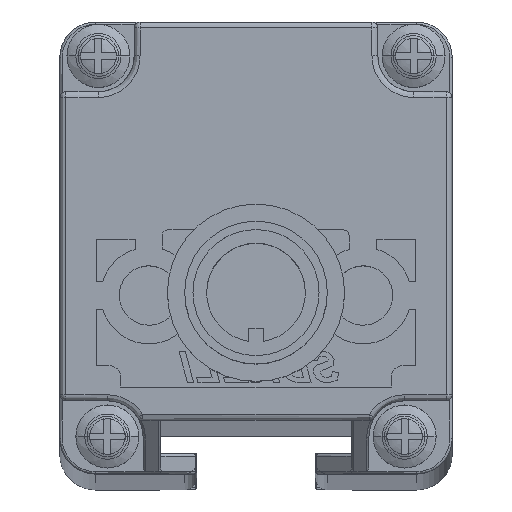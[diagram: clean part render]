
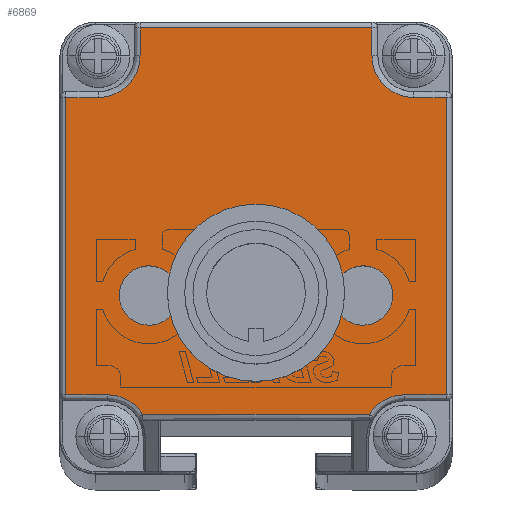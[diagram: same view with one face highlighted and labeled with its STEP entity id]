
A CAD part, top view. The second image highlights one B-rep face of the part: STEP entity #6869.
In plain terms, the highlighted planar face has unit normal (0, 0, 1).
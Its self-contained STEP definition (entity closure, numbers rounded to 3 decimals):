
#2781=CARTESIAN_POINT('',(0.65,-8.054,
645.276));
#2782=DIRECTION('',(0.,0.,1.));
#2783=DIRECTION('',(1.,0.,0.));
#2784=AXIS2_PLACEMENT_3D('',#2781,#2782,#2783);
#2786=CARTESIAN_POINT('',(0.65,-8.054,
645.276));
#2787=DIRECTION('',(0.,0.,1.));
#2788=DIRECTION('',(-1.,0.,0.));
#2789=AXIS2_PLACEMENT_3D('',#2786,#2787,#2788);
#2791=CARTESIAN_POINT('',(9.65,-8.055,645.276));
#2792=DIRECTION('',(0.,0.,1.));
#2793=DIRECTION('',(1.,-0.007,0.));
#2794=AXIS2_PLACEMENT_3D('',#2791,#2792,#2793);
#2796=CARTESIAN_POINT('',(9.65,-8.055,645.276));
#2797=DIRECTION('',(0.,0.,1.));
#2798=DIRECTION('',(-1.,0.007,0.));
#2799=AXIS2_PLACEMENT_3D('',#2796,#2797,#2798);
#2801=CARTESIAN_POINT('',(-8.35,-8.054,
645.276));
#2802=DIRECTION('',(0.,0.,1.));
#2803=DIRECTION('',(1.,0.007,0.));
#2804=AXIS2_PLACEMENT_3D('',#2801,#2802,#2803);
#2806=CARTESIAN_POINT('',(-8.35,-8.054,
645.276));
#2807=DIRECTION('',(0.,0.,1.));
#2808=DIRECTION('',(-1.,-0.007,0.));
#2809=AXIS2_PLACEMENT_3D('',#2806,#2807,#2808);
#2811=CARTESIAN_POINT('',(-11.85,-19.904,
645.276));
#2812=DIRECTION('',(0.,0.,1.));
#2813=DIRECTION('',(0.849,0.528,0.));
#2814=AXIS2_PLACEMENT_3D('',#2811,#2812,#2813);
#2816=CARTESIAN_POINT('',(-12.6,12.094,645.276));
#2817=DIRECTION('',(0.,0.,1.));
#2818=DIRECTION('',(0.,-1.,0.));
#2819=AXIS2_PLACEMENT_3D('',#2816,#2817,#2818);
#2821=CARTESIAN_POINT('',(13.9,12.094,645.276));
#2822=DIRECTION('',(0.,0.,1.));
#2823=DIRECTION('',(-1.,0.,0.));
#2824=AXIS2_PLACEMENT_3D('',#2821,#2822,#2823);
#2826=CARTESIAN_POINT('',(13.15,-19.904,645.276));
#2827=DIRECTION('',(0.,0.,1.));
#2828=DIRECTION('',(0.,1.,0.));
#2829=AXIS2_PLACEMENT_3D('',#2826,#2827,#2828);
#4545=DIRECTION('',(1.,0.,0.));
#4546=VECTOR('',#4545,19.056);
#4547=CARTESIAN_POINT('',(-8.878,-18.056,
645.276));
#4548=LINE('',#4547,#4546);
#4928=DIRECTION('',(0.,1.,0.));
#4929=VECTOR('',#4928,24.998);
#4930=CARTESIAN_POINT('',(16.65,-16.404,645.276));
#4931=LINE('',#4930,#4929);
#4951=DIRECTION('',(1.,0.,0.));
#4952=VECTOR('',#4951,3.5);
#4953=CARTESIAN_POINT('',(13.15,-16.404,645.276));
#4954=LINE('',#4953,#4952);
#4975=DIRECTION('',(-1.,0.,0.));
#4976=VECTOR('',#4975,2.75);
#4977=CARTESIAN_POINT('',(16.65,8.594,645.276));
#4978=LINE('',#4977,#4976);
#5002=DIRECTION('',(0.,1.,0.));
#5003=VECTOR('',#5002,2.35);
#5004=CARTESIAN_POINT('',(10.4,12.094,645.276));
#5005=LINE('',#5004,#5003);
#5213=DIRECTION('',(-1.,0.,0.));
#5214=VECTOR('',#5213,19.5);
#5215=CARTESIAN_POINT('',(10.4,14.444,645.276));
#5216=LINE('',#5215,#5214);
#5252=DIRECTION('',(0.,-1.,0.));
#5253=VECTOR('',#5252,2.35);
#5254=CARTESIAN_POINT('',(-9.1,14.444,645.276));
#5255=LINE('',#5254,#5253);
#5279=DIRECTION('',(-1.,0.,0.));
#5280=VECTOR('',#5279,2.75);
#5281=CARTESIAN_POINT('',(-12.6,8.594,645.276));
#5282=LINE('',#5281,#5280);
#5450=DIRECTION('',(0.,-1.,0.));
#5451=VECTOR('',#5450,24.998);
#5452=CARTESIAN_POINT('',(-15.35,8.594,645.276));
#5453=LINE('',#5452,#5451);
#5489=DIRECTION('',(1.,0.,0.));
#5490=VECTOR('',#5489,3.5);
#5491=CARTESIAN_POINT('',(-15.35,-16.404,
645.276));
#5492=LINE('',#5491,#5490);
#5953=CARTESIAN_POINT('',(12.15,-8.072,645.276));
#5954=VERTEX_POINT('',#5953);
#5955=CARTESIAN_POINT('',(7.15,-8.039,645.276));
#5956=VERTEX_POINT('',#5955);
#5957=CARTESIAN_POINT('',(-8.878,-18.056,
645.276));
#5958=CARTESIAN_POINT('',(-11.85,-16.404,
645.276));
#5959=VERTEX_POINT('',#5957);
#5960=VERTEX_POINT('',#5958);
#5961=CARTESIAN_POINT('',(-15.35,-16.404,
645.276));
#5962=VERTEX_POINT('',#5961);
#5963=CARTESIAN_POINT('',(-15.35,8.594,645.276));
#5964=VERTEX_POINT('',#5963);
#5965=CARTESIAN_POINT('',(-12.6,8.594,645.276));
#5966=VERTEX_POINT('',#5965);
#5967=CARTESIAN_POINT('',(-9.1,12.094,645.276));
#5968=VERTEX_POINT('',#5967);
#5969=CARTESIAN_POINT('',(-9.1,14.444,645.276));
#5970=VERTEX_POINT('',#5969);
#5971=CARTESIAN_POINT('',(10.4,14.444,645.276));
#5972=VERTEX_POINT('',#5971);
#5973=CARTESIAN_POINT('',(10.4,12.094,645.276));
#5974=VERTEX_POINT('',#5973);
#5975=CARTESIAN_POINT('',(13.9,8.594,645.276));
#5976=VERTEX_POINT('',#5975);
#5977=CARTESIAN_POINT('',(16.65,8.594,645.276));
#5978=VERTEX_POINT('',#5977);
#5979=CARTESIAN_POINT('',(16.65,-16.404,645.276));
#5980=VERTEX_POINT('',#5979);
#5981=CARTESIAN_POINT('',(13.15,-16.404,645.276));
#5982=VERTEX_POINT('',#5981);
#5983=CARTESIAN_POINT('',(10.178,-18.056,645.276));
#5984=VERTEX_POINT('',#5983);
#5985=CARTESIAN_POINT('',(-5.85,-8.037,
645.276));
#5986=CARTESIAN_POINT('',(-10.85,-8.07,
645.276));
#5987=VERTEX_POINT('',#5985);
#5988=VERTEX_POINT('',#5986);
#5989=CARTESIAN_POINT('',(3.65,-8.054,645.276));
#5990=CARTESIAN_POINT('',(-2.35,-8.054,
645.276));
#5991=VERTEX_POINT('',#5989);
#5992=VERTEX_POINT('',#5990);
#6818=CARTESIAN_POINT('',(0.65,0.944,
645.276));
#6819=DIRECTION('',(0.,0.,1.));
#6820=DIRECTION('',(1.,0.,0.));
#6821=AXIS2_PLACEMENT_3D('',#6818,#6819,#6820);
#6822=PLANE('',#6821);
#6824=ORIENTED_EDGE('',*,*,#6823,.T.);
#6826=ORIENTED_EDGE('',*,*,#6825,.F.);
#6828=ORIENTED_EDGE('',*,*,#6827,.F.);
#6830=ORIENTED_EDGE('',*,*,#6829,.F.);
#6832=ORIENTED_EDGE('',*,*,#6831,.T.);
#6834=ORIENTED_EDGE('',*,*,#6833,.F.);
#6836=ORIENTED_EDGE('',*,*,#6835,.F.);
#6838=ORIENTED_EDGE('',*,*,#6837,.F.);
#6840=ORIENTED_EDGE('',*,*,#6839,.T.);
#6842=ORIENTED_EDGE('',*,*,#6841,.F.);
#6844=ORIENTED_EDGE('',*,*,#6843,.F.);
#6846=ORIENTED_EDGE('',*,*,#6845,.F.);
#6848=ORIENTED_EDGE('',*,*,#6847,.T.);
#6850=ORIENTED_EDGE('',*,*,#6849,.F.);
#6851=EDGE_LOOP('',(#6824,#6826,#6828,#6830,#6832,#6834,#6836,#6838,#6840,#6842,
#6844,#6846,#6848,#6850));
#6852=FACE_OUTER_BOUND('',#6851,.F.);
#6853=ORIENTED_EDGE('',*,*,#6805,.T.);
#6854=ORIENTED_EDGE('',*,*,#6766,.T.);
#6855=EDGE_LOOP('',(#6853,#6854));
#6856=FACE_BOUND('',#6855,.F.);
#6858=ORIENTED_EDGE('',*,*,#6857,.T.);
#6860=ORIENTED_EDGE('',*,*,#6859,.T.);
#6861=EDGE_LOOP('',(#6858,#6860));
#6862=FACE_BOUND('',#6861,.F.);
#6864=ORIENTED_EDGE('',*,*,#6863,.T.);
#6866=ORIENTED_EDGE('',*,*,#6865,.T.);
#6867=EDGE_LOOP('',(#6864,#6866));
#6868=FACE_BOUND('',#6867,.F.);
#2785=CIRCLE('',#2784,3.);
#2790=CIRCLE('',#2789,3.);
#2795=CIRCLE('',#2794,2.5);
#2800=CIRCLE('',#2799,2.5);
#2805=CIRCLE('',#2804,2.5);
#2810=CIRCLE('',#2809,2.5);
#2815=CIRCLE('',#2814,3.5);
#2820=CIRCLE('',#2819,3.5);
#2825=CIRCLE('',#2824,3.5);
#2830=CIRCLE('',#2829,3.5);
#6766=EDGE_CURVE('',#5956,#5954,#2800,.T.);
#6805=EDGE_CURVE('',#5954,#5956,#2795,.T.);
#6823=EDGE_CURVE('',#5959,#5960,#2815,.T.);
#6825=EDGE_CURVE('',#5962,#5960,#5492,.T.);
#6827=EDGE_CURVE('',#5964,#5962,#5453,.T.);
#6829=EDGE_CURVE('',#5966,#5964,#5282,.T.);
#6831=EDGE_CURVE('',#5966,#5968,#2820,.T.);
#6833=EDGE_CURVE('',#5970,#5968,#5255,.T.);
#6835=EDGE_CURVE('',#5972,#5970,#5216,.T.);
#6837=EDGE_CURVE('',#5974,#5972,#5005,.T.);
#6839=EDGE_CURVE('',#5974,#5976,#2825,.T.);
#6841=EDGE_CURVE('',#5978,#5976,#4978,.T.);
#6843=EDGE_CURVE('',#5980,#5978,#4931,.T.);
#6845=EDGE_CURVE('',#5982,#5980,#4954,.T.);
#6847=EDGE_CURVE('',#5982,#5984,#2830,.T.);
#6849=EDGE_CURVE('',#5959,#5984,#4548,.T.);
#6857=EDGE_CURVE('',#5987,#5988,#2805,.T.);
#6859=EDGE_CURVE('',#5988,#5987,#2810,.T.);
#6863=EDGE_CURVE('',#5991,#5992,#2785,.T.);
#6865=EDGE_CURVE('',#5992,#5991,#2790,.T.);
#6869=ADVANCED_FACE('',(#6852,#6856,#6862,#6868),#6822,.T.);
